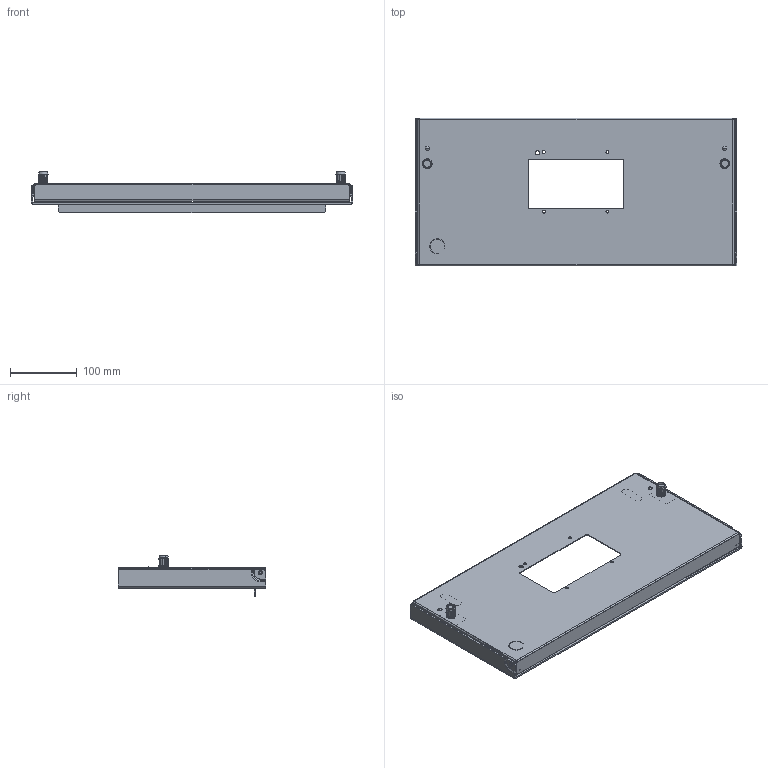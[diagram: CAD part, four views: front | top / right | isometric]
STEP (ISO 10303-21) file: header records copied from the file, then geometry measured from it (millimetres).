
FILE_DESCRIPTION (( 'STEP AP214' ), '1' );
FILE_NAME ('310113807.STEP', '2026-07-28T12:58:47', ( 'VPC Computer Systems' ), ( 'Virginia Panel Corporation' ), 'SwSTEP 2.0', 'SolidWorks 2025', '' );
FILE_SCHEMA (( 'AUTOMOTIVE_DESIGN' ));
Length unit declared in the file: inch
Products named in the file (1): 310113807
Bounding box: 482.6 x 221.49 x 61.58 mm (x, y, z)
Volume: 300780.5 mm3; surface area: 386214.4 mm2
Topology: 3 solids, 6 shells, 894 faces, 2374 edges, 1500 vertices
Faces by surface type: plane 373, cylinder 317, bspline 106, cone 54, sphere 28, torus 16
Entity records: 29263 total; most frequent: CARTESIAN_POINT 7335, ORIENTED_EDGE 4640, DIRECTION 4500, EDGE_CURVE 2320, AXIS2_PLACEMENT_3D 1617, VERTEX_POINT 1490, VECTOR 1266, LINE 1266
